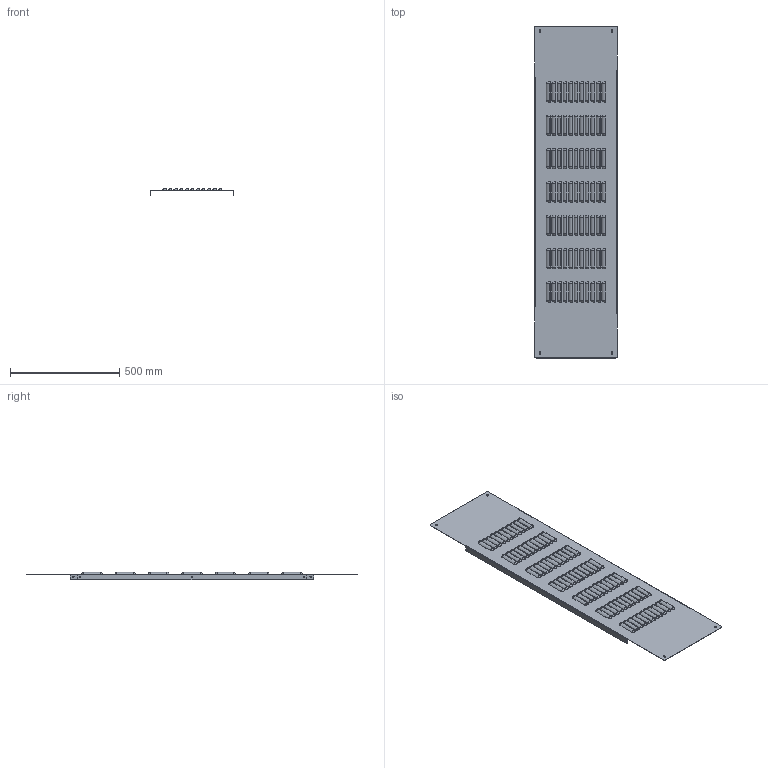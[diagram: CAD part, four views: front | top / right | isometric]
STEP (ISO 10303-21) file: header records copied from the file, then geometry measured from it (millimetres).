
FILE_DESCRIPTION((''),'2;1');
FILE_NAME('FLOOR-KIT-SKIRT-ASSEMBLY_ASM','2016-05-31T',('dougp'),('SAGINAW CONTROL & ENGINEERING'),'PRO/ENGINEER BY PARAMETRIC TECHNOLOGY CORPORATION, 2012070','PRO/ENGINEER BY PARAMETRIC TECHNOLOGY CORPORATION, 2012070','');
FILE_SCHEMA(('AUTOMOTIVE_DESIGN { 1 0 10303 214 1 1 1 1 }'));
Products named in the file (3): FLOOR-KIT-SKIRT; 121214; FLOOR-KIT-SKIRT-ASSEMBLY_ASM
Assembly tree (2 placements, depth 2):
  FLOOR-KIT-SKIRT-ASSEMBLY_ASM
    FLOOR-KIT-SKIRT
    121214
Bounding box: 379.41 x 1517.65 x 33.32 mm (x, y, z)
Volume: 986994.2 mm3; surface area: 1326937.3 mm2
Topology: 1 solids, 1 shells, 1314 faces, 3304 edges, 1992 vertices
Faces by surface type: bspline 474, plane 346, torus 308, cylinder 186
Entity records: 63981 total; most frequent: CARTESIAN_POINT 35547, ORIENTED_EDGE 6608, DIRECTION 4442, EDGE_CURVE 3304, VERTEX_POINT 1992, VECTOR 1684, LINE 1684, EDGE_LOOP 1488
